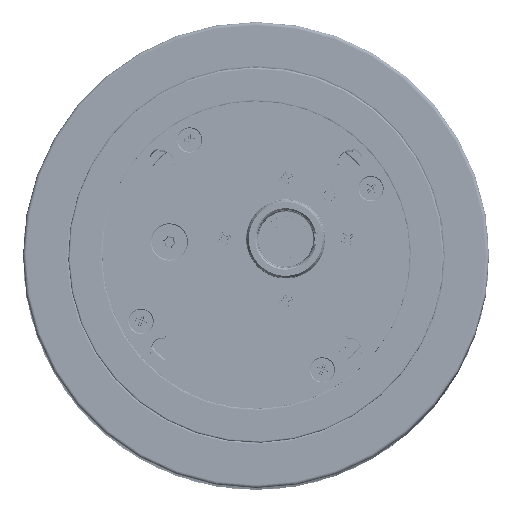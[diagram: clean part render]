
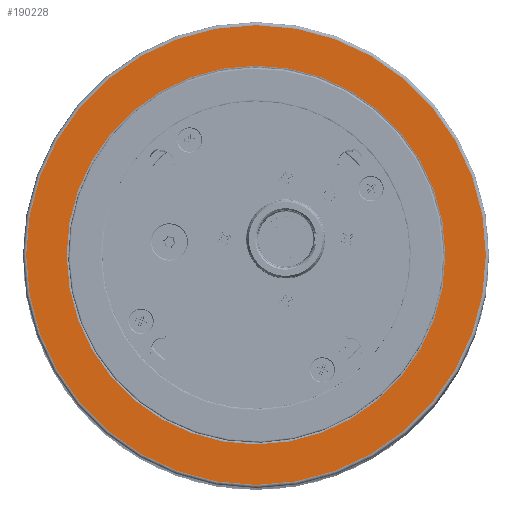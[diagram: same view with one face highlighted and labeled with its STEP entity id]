
A CAD part, top view. The second image highlights one B-rep face of the part: STEP entity #190228.
In plain terms, the highlighted planar face has unit normal (0, 0, 1).
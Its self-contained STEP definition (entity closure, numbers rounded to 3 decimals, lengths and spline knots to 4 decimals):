
#2733 = CIRCLE ( 'NONE', #182190, 2.3031 ) ;
#2917 = CARTESIAN_POINT ( 'NONE',  ( -0.4899, -0.1881, 19.7244 ) ) ;
#3998 = CIRCLE ( 'NONE', #114209, 2.7953 ) ;
#4961 = VERTEX_POINT ( 'NONE', #34532 ) ;
#5247 = PLANE ( 'NONE',  #151023 ) ;
#6408 = ORIENTED_EDGE ( 'NONE', *, *, #170831, .T. ) ;
#9830 = DIRECTION ( 'NONE',  ( 0., -1., 0. ) ) ;
#12153 = EDGE_CURVE ( 'NONE', #4961, #120559, #72637, .T. ) ;
#29746 = ORIENTED_EDGE ( 'NONE', *, *, #12153, .T. ) ;
#30454 = CARTESIAN_POINT ( 'NONE',  ( -0.4899, 2.1151, 19.7244 ) ) ;
#34532 = CARTESIAN_POINT ( 'NONE',  ( -0.4899, -2.9834, 19.7244 ) ) ;
#34964 = DIRECTION ( 'NONE',  ( 0., 0., 1. ) ) ;
#48047 = CARTESIAN_POINT ( 'NONE',  ( -0.4899, 2.6072, 19.7244 ) ) ;
#50297 = CIRCLE ( 'NONE', #179805, 2.3031 ) ;
#70373 = ORIENTED_EDGE ( 'NONE', *, *, #84620, .T. ) ;
#72155 = DIRECTION ( 'NONE',  ( 0., 0., -1. ) ) ;
#72637 = CIRCLE ( 'NONE', #161404, 2.7953 ) ;
#79903 = CARTESIAN_POINT ( 'NONE',  ( -0.4899, -2.4912, 19.7244 ) ) ;
#82651 = DIRECTION ( 'NONE',  ( 0., 0., 1. ) ) ;
#84620 = EDGE_CURVE ( 'NONE', #120559, #4961, #3998, .T. ) ;
#97341 = FACE_OUTER_BOUND ( 'NONE', #173342, .T. ) ;
#107365 = EDGE_CURVE ( 'NONE', #191484, #174569, #50297, .T. ) ;
#114209 = AXIS2_PLACEMENT_3D ( 'NONE', #165505, #118728, #9830 ) ;
#118728 = DIRECTION ( 'NONE',  ( 0., 0., 1. ) ) ;
#120559 = VERTEX_POINT ( 'NONE', #48047 ) ;
#127847 = ORIENTED_EDGE ( 'NONE', *, *, #107365, .T. ) ;
#128868 = FACE_BOUND ( 'NONE', #176662, .T. ) ;
#131162 = CARTESIAN_POINT ( 'NONE',  ( -0.4899, -0.1881, 19.7244 ) ) ;
#143354 = DIRECTION ( 'NONE',  ( 0., -1., 0. ) ) ;
#144347 = DIRECTION ( 'NONE',  ( 0., -1., 0. ) ) ;
#151023 = AXIS2_PLACEMENT_3D ( 'NONE', #190698, #34964, #143354 ) ;
#161404 = AXIS2_PLACEMENT_3D ( 'NONE', #2917, #82651, #190392 ) ;
#162976 = DIRECTION ( 'NONE',  ( 0., -1., 0. ) ) ;
#165505 = CARTESIAN_POINT ( 'NONE',  ( -0.4899, -0.1881, 19.7244 ) ) ;
#170831 = EDGE_CURVE ( 'NONE', #174569, #191484, #2733, .T. ) ;
#173342 = EDGE_LOOP ( 'NONE', ( #29746, #70373 ) ) ;
#174569 = VERTEX_POINT ( 'NONE', #79903 ) ;
#174790 = CARTESIAN_POINT ( 'NONE',  ( -0.4899, -0.1881, 19.7244 ) ) ;
#176662 = EDGE_LOOP ( 'NONE', ( #6408, #127847 ) ) ;
#179805 = AXIS2_PLACEMENT_3D ( 'NONE', #174790, #191025, #144347 ) ;
#182190 = AXIS2_PLACEMENT_3D ( 'NONE', #131162, #72155, #162976 ) ;
#190228 = ADVANCED_FACE ( 'NONE', ( #97341, #128868 ), #5247, .T. ) ;
#190392 = DIRECTION ( 'NONE',  ( 0., -1., 0. ) ) ;
#190698 = CARTESIAN_POINT ( 'NONE',  ( 2.3448, -0.1881, 19.7244 ) ) ;
#191025 = DIRECTION ( 'NONE',  ( 0., 0., -1. ) ) ;
#191484 = VERTEX_POINT ( 'NONE', #30454 ) ;
